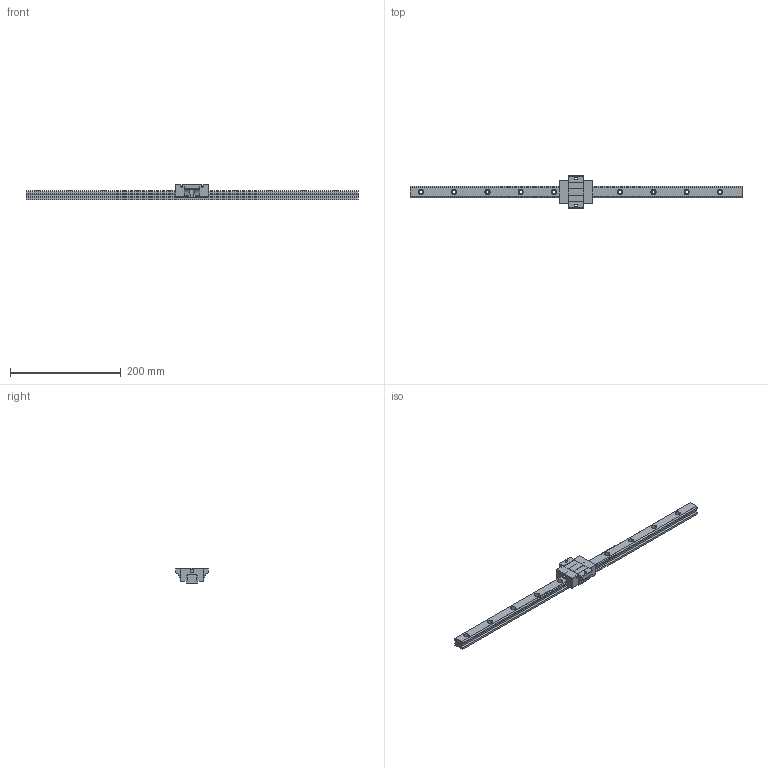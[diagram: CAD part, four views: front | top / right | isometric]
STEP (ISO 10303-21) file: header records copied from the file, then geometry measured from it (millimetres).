
FILE_DESCRIPTION (( 'STEP AP203' ), '1' );
FILE_NAME ('123.STEP', '2024-05-21T07:23:36', ( '' ), ( '' ), 'SwSTEP 2.0', 'SolidWorks 2022', '' );
FILE_SCHEMA (( 'CONFIG_CONTROL_DESIGN' ));
Length unit declared in the file: millimetre
Products named in the file (1): 123
Bounding box: 600 x 59 x 28 mm (x, y, z)
Volume: 217149 mm3; surface area: 62228.5 mm2
Topology: 2 solids, 2 shells, 224 faces, 596 edges, 388 vertices
Faces by surface type: cylinder 116, plane 104, sphere 4
Entity records: 7291 total; most frequent: CARTESIAN_POINT 1449, DIRECTION 1238, ORIENTED_EDGE 1184, EDGE_CURVE 592, AXIS2_PLACEMENT_3D 441, VERTEX_POINT 388, LINE 356, VECTOR 356
